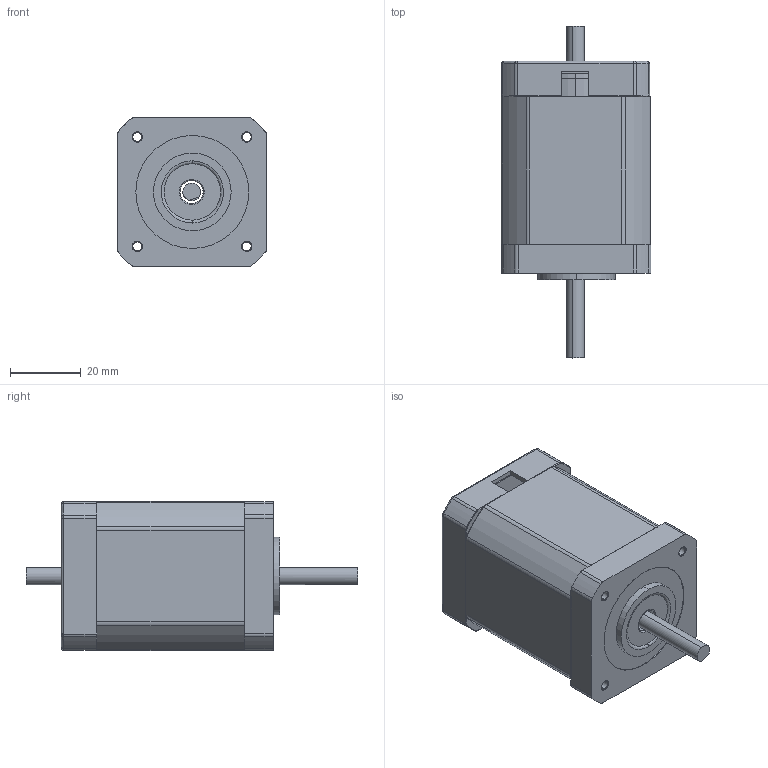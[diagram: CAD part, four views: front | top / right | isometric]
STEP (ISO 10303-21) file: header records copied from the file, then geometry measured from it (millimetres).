
FILE_DESCRIPTION (( 'STEP AP203' ), '1' );
FILE_NAME ('42CM08-SZ MS20.STEP', '2021-04-23T03:42:52', ( 'Owner' ), ( 'Organization' ), 'SwSTEP 2.0', 'SolidWorks 2018', '' );
FILE_SCHEMA (( 'CONFIG_CONTROL_DESIGN' ));
Length unit declared in the file: millimetre
Products named in the file (5): 42CM08-SZ MS20; 隅赽42-42; 16-401; 粣1; 16-406
Assembly tree (4 placements, depth 2):
  42CM08-SZ MS20
    隅赽42-42
    16-401
    16-406
    粣1
Bounding box: 42.38 x 94 x 42.2 mm (x, y, z)
Volume: 49493 mm3; surface area: 41507.7 mm2
Topology: 4 solids, 4 shells, 660 faces, 1835 edges, 1193 vertices
Faces by surface type: cylinder 391, plane 193, bspline 42, cone 34
Entity records: 23223 total; most frequent: CARTESIAN_POINT 5239, DIRECTION 3857, ORIENTED_EDGE 3664, EDGE_CURVE 1832, AXIS2_PLACEMENT_3D 1464, VERTEX_POINT 1193, VECTOR 929, LINE 929
